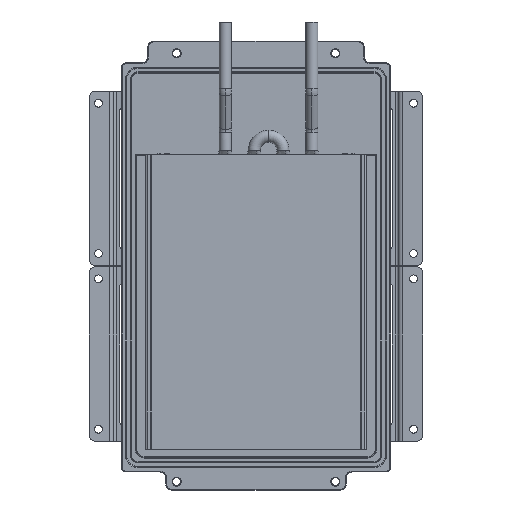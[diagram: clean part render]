
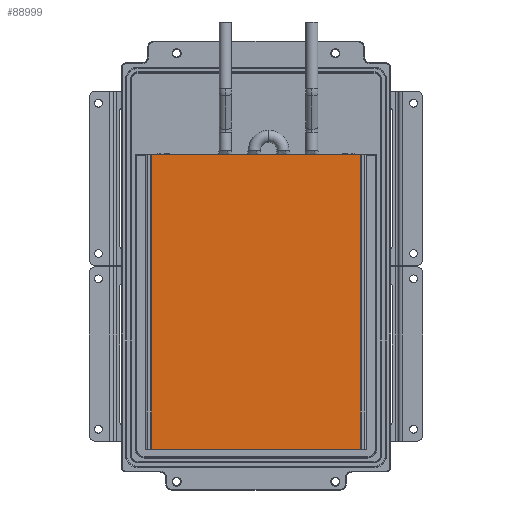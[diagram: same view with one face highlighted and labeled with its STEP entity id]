
A CAD part, front view. The second image highlights one B-rep face of the part: STEP entity #88999.
In plain terms, the highlighted planar face has unit normal (0, -1, 0).
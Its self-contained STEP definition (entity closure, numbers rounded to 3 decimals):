
#4482 = VERTEX_POINT ( 'NONE', #41181 ) ;
#6612 = DIRECTION ( 'NONE',  ( -1., 0., 0. ) ) ;
#9092 = CARTESIAN_POINT ( 'NONE',  ( 89., -21., -151. ) ) ;
#12919 = EDGE_LOOP ( 'NONE', ( #26867, #46839, #51939, #73683 ) ) ;
#16430 = CARTESIAN_POINT ( 'NONE',  ( 93.5, -21., 94. ) ) ;
#17465 = VECTOR ( 'NONE', #58570, 1000. ) ;
#19984 = CARTESIAN_POINT ( 'NONE',  ( 93.5, -21., -151. ) ) ;
#26867 = ORIENTED_EDGE ( 'NONE', *, *, #94103, .T. ) ;
#32714 = VECTOR ( 'NONE', #6612, 1000. ) ;
#34762 = PLANE ( 'NONE',  #77167 ) ;
#36667 = VERTEX_POINT ( 'NONE', #58872 ) ;
#36956 = EDGE_CURVE ( 'NONE', #67373, #4482, #88555, .T. ) ;
#41181 = CARTESIAN_POINT ( 'NONE',  ( -85., -21., 94. ) ) ;
#41270 = CARTESIAN_POINT ( 'NONE',  ( 89., -21., 94. ) ) ;
#42071 = LINE ( 'NONE', #82055, #73421 ) ;
#43986 = VECTOR ( 'NONE', #72769, 1000. ) ;
#46839 = ORIENTED_EDGE ( 'NONE', *, *, #82818, .F. ) ;
#51939 = ORIENTED_EDGE ( 'NONE', *, *, #70458, .T. ) ;
#58570 = DIRECTION ( 'NONE',  ( 0., 0., 1. ) ) ;
#58872 = CARTESIAN_POINT ( 'NONE',  ( 89., -21., -151. ) ) ;
#66782 = DIRECTION ( 'NONE',  ( 0., 0., -1. ) ) ;
#66855 = DIRECTION ( 'NONE',  ( 0., 1., 0. ) ) ;
#67373 = VERTEX_POINT ( 'NONE', #41270 ) ;
#70458 = EDGE_CURVE ( 'NONE', #36667, #67373, #89665, .T. ) ;
#72769 = DIRECTION ( 'NONE',  ( -1., 0., 0. ) ) ;
#73421 = VECTOR ( 'NONE', #66782, 1000. ) ;
#73683 = ORIENTED_EDGE ( 'NONE', *, *, #36956, .T. ) ;
#77167 = AXIS2_PLACEMENT_3D ( 'NONE', #19984, #66855, #91091 ) ;
#78759 = LINE ( 'NONE', #102489, #32714 ) ;
#82055 = CARTESIAN_POINT ( 'NONE',  ( -85., -21., -151. ) ) ;
#82818 = EDGE_CURVE ( 'NONE', #36667, #84948, #78759, .T. ) ;
#84948 = VERTEX_POINT ( 'NONE', #96838 ) ;
#88555 = LINE ( 'NONE', #16430, #43986 ) ;
#88999 = ADVANCED_FACE ( 'NONE', ( #92111 ), #34762, .F. ) ;
#89665 = LINE ( 'NONE', #9092, #17465 ) ;
#91091 = DIRECTION ( 'NONE',  ( 1., 0., 0. ) ) ;
#92111 = FACE_OUTER_BOUND ( 'NONE', #12919, .T. ) ;
#94103 = EDGE_CURVE ( 'NONE', #4482, #84948, #42071, .T. ) ;
#96838 = CARTESIAN_POINT ( 'NONE',  ( -85., -21., -151. ) ) ;
#102489 = CARTESIAN_POINT ( 'NONE',  ( 89., -21., -151. ) ) ;
